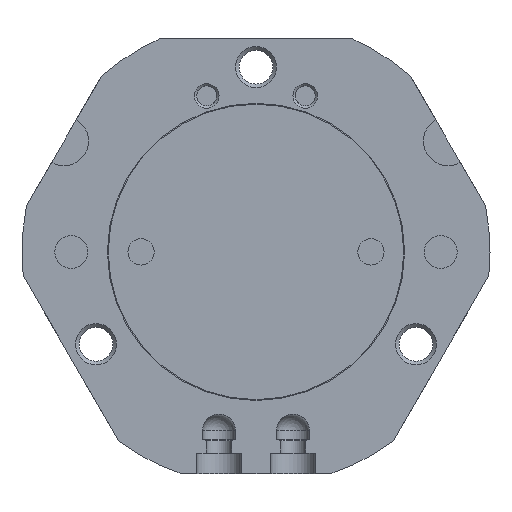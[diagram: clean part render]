
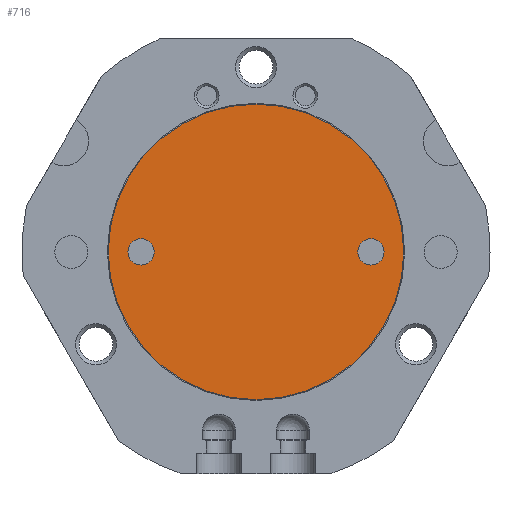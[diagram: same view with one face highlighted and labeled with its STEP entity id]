
A CAD part, front view. The second image highlights one B-rep face of the part: STEP entity #716.
In plain terms, the highlighted planar face has unit normal (0, -1, 0).
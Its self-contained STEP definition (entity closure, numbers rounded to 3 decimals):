
#716 = ADVANCED_FACE( '', ( #1523, #1524, #1525 ), #1526, .F. );
#1523 = FACE_BOUND( '', #2415, .T. );
#1524 = FACE_OUTER_BOUND( '', #2416, .T. );
#1525 = FACE_BOUND( '', #2417, .T. );
#1526 = PLANE( '', #2418 );
#2415 = EDGE_LOOP( '', ( #4247 ) );
#2416 = EDGE_LOOP( '', ( #4248 ) );
#2417 = EDGE_LOOP( '', ( #4249 ) );
#2418 = AXIS2_PLACEMENT_3D( '', #4250, #4251, #4252 );
#4247 = ORIENTED_EDGE( '', *, *, #5426, .F. );
#4248 = ORIENTED_EDGE( '', *, *, #5785, .F. );
#4249 = ORIENTED_EDGE( '', *, *, #5728, .F. );
#4250 = CARTESIAN_POINT( '', ( 0., 0., 0. ) );
#4251 = DIRECTION( '', ( 0., 1., 0. ) );
#4252 = DIRECTION( '', ( 0., 0., 1. ) );
#5426 = EDGE_CURVE( '', #6604, #6604, #6605, .T. );
#5728 = EDGE_CURVE( '', #7033, #7033, #7034, .T. );
#5785 = EDGE_CURVE( '', #7105, #7105, #7106, .T. );
#6604 = VERTEX_POINT( '', #8259 );
#6605 = CIRCLE( '', #8260, 1.6 );
#7033 = VERTEX_POINT( '', #8895 );
#7034 = CIRCLE( '', #8896, 1.6 );
#7105 = VERTEX_POINT( '', #8995 );
#7106 = CIRCLE( '', #8996, 18. );
#8259 = CARTESIAN_POINT( '', ( 14., 0., -1.6 ) );
#8260 = AXIS2_PLACEMENT_3D( '', #9705, #9706, #9707 );
#8895 = CARTESIAN_POINT( '', ( -14., 0., -1.6 ) );
#8896 = AXIS2_PLACEMENT_3D( '', #10056, #10057, #10058 );
#8995 = CARTESIAN_POINT( '', ( 18., 0., 0. ) );
#8996 = AXIS2_PLACEMENT_3D( '', #10111, #10112, #10113 );
#9705 = CARTESIAN_POINT( '', ( 14., 0., 0. ) );
#9706 = DIRECTION( '', ( 0., -1., 0. ) );
#9707 = DIRECTION( '', ( 0., 0., -1. ) );
#10056 = CARTESIAN_POINT( '', ( -14., 0., 0. ) );
#10057 = DIRECTION( '', ( 0., -1., 0. ) );
#10058 = DIRECTION( '', ( 0., 0., -1. ) );
#10111 = CARTESIAN_POINT( '', ( 0., 0., 0. ) );
#10112 = DIRECTION( '', ( 0., 1., 0. ) );
#10113 = DIRECTION( '', ( 1., 0., 0. ) );
